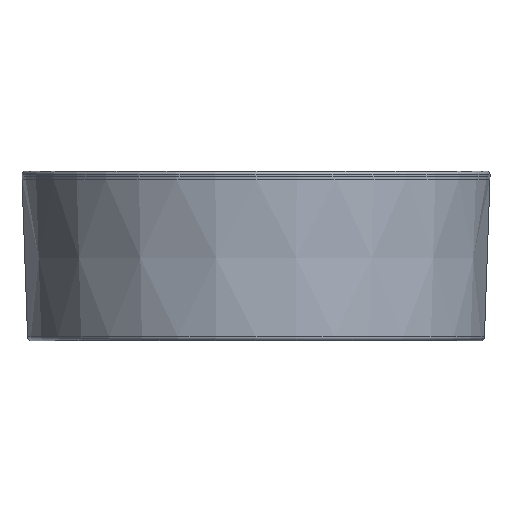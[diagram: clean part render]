
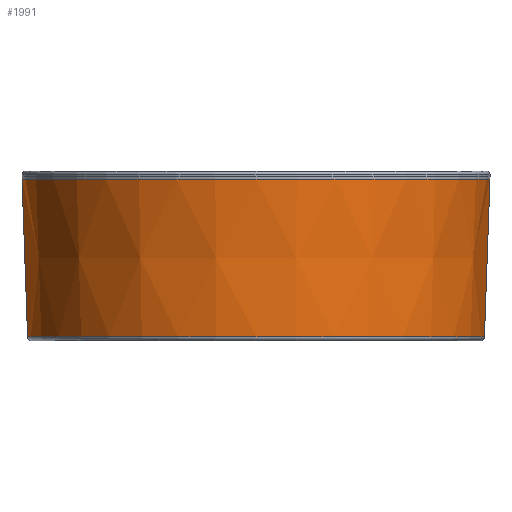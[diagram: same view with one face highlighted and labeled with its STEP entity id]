
A CAD part, left-side view. The second image highlights one B-rep face of the part: STEP entity #1991.
In plain terms, the highlighted conical face has half-angle 2 degrees and reference radius 170.44 mm.
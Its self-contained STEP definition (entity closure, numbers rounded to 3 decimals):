
#76=CARTESIAN_POINT('',(-155.,0.,2.895));
#77=DIRECTION('',(0.,0.,-1.));
#78=DIRECTION('',(0.,-1.,0.));
#79=AXIS2_PLACEMENT_3D('',#76,#77,#78);
#81=DIRECTION('',(0.,-0.035,-0.999));
#82=VECTOR('',#81,116.279);
#83=CARTESIAN_POINT('',(-155.,172.469,119.103));
#84=LINE('',#83,#82);
#85=CARTESIAN_POINT('',(-155.,0.,119.103));
#86=DIRECTION('',(0.,0.,-1.));
#87=DIRECTION('',(0.,-1.,0.));
#88=AXIS2_PLACEMENT_3D('',#85,#86,#87);
#1558=DIRECTION('',(0.,0.035,-0.999));
#1559=VECTOR('',#1558,116.279);
#1560=CARTESIAN_POINT('',(-155.,-172.469,
119.103));
#1561=LINE('',#1560,#1559);
#1729=CARTESIAN_POINT('',(-155.,172.469,119.103));
#1731=VERTEX_POINT('',#1729);
#1741=CARTESIAN_POINT('',(-155.,-172.469,
119.103));
#1742=VERTEX_POINT('',#1741);
#1853=CARTESIAN_POINT('',(-155.,168.411,2.895));
#1855=VERTEX_POINT('',#1853);
#1863=CARTESIAN_POINT('',(-155.,-168.411,
2.895));
#1864=VERTEX_POINT('',#1863);
#1977=CARTESIAN_POINT('',(-155.,0.,60.999));
#1978=DIRECTION('',(0.,0.,1.));
#1979=DIRECTION('',(1.,0.,0.));
#1980=AXIS2_PLACEMENT_3D('',#1977,#1978,#1979);
#1981=CONICAL_SURFACE('',#1980,170.44,2.);
#1983=ORIENTED_EDGE('',*,*,#1982,.T.);
#1985=ORIENTED_EDGE('',*,*,#1984,.F.);
#1986=ORIENTED_EDGE('',*,*,#1967,.F.);
#1988=ORIENTED_EDGE('',*,*,#1987,.T.);
#1989=EDGE_LOOP('',(#1983,#1985,#1986,#1988));
#1990=FACE_OUTER_BOUND('',#1989,.F.);
#1991=ADVANCED_FACE('',(#1990),#1981,.T.);
#80=CIRCLE('',#79,168.411);
#89=CIRCLE('',#88,172.469);
#1967=EDGE_CURVE('',#1742,#1731,#89,.T.);
#1982=EDGE_CURVE('',#1864,#1855,#80,.T.);
#1984=EDGE_CURVE('',#1731,#1855,#84,.T.);
#1987=EDGE_CURVE('',#1742,#1864,#1561,.T.);
